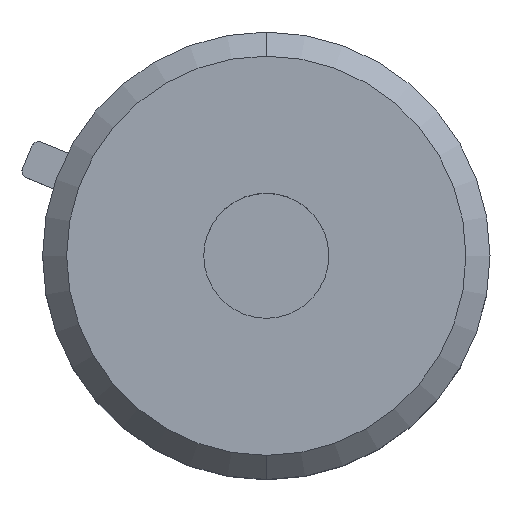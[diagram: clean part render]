
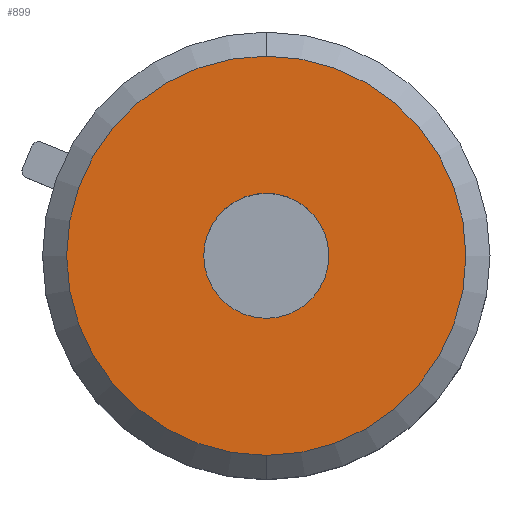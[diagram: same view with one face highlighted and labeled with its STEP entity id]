
A CAD part, top view. The second image highlights one B-rep face of the part: STEP entity #899.
In plain terms, the highlighted planar face has unit normal (0, 0, 1).
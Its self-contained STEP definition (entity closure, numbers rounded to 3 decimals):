
#42 = DIRECTION ( 'NONE',  ( 0., -1., 0. ) ) ;
#55 = CIRCLE ( 'NONE', #1607, 1.3 ) ;
#126 = DIRECTION ( 'NONE',  ( 0.707, 0.707, 0. ) ) ;
#130 = ORIENTED_EDGE ( 'NONE', *, *, #1163, .T. ) ;
#148 = DIRECTION ( 'NONE',  ( 0., 0., 1. ) ) ;
#184 = DIRECTION ( 'NONE',  ( 0., -1., 0. ) ) ;
#221 = EDGE_CURVE ( 'NONE', #1506, #1194, #1068, .T. ) ;
#233 = ORIENTED_EDGE ( 'NONE', *, *, #301, .F. ) ;
#300 = DIRECTION ( 'NONE',  ( 0., -1., 0. ) ) ;
#301 = EDGE_CURVE ( 'NONE', #1147, #1373, #55, .T. ) ;
#313 = CARTESIAN_POINT ( 'NONE',  ( 0., 0., 6.1 ) ) ;
#564 = DIRECTION ( 'NONE',  ( 0., 0., 1. ) ) ;
#608 = ORIENTED_EDGE ( 'NONE', *, *, #1126, .F. ) ;
#875 = EDGE_LOOP ( 'NONE', ( #130, #1139 ) ) ;
#899 = ADVANCED_FACE ( 'NONE', ( #1886, #1753 ), #1310, .T. ) ;
#916 = DIRECTION ( 'NONE',  ( 0., -1., 0. ) ) ;
#967 = AXIS2_PLACEMENT_3D ( 'NONE', #1910, #564, #126 ) ;
#970 = AXIS2_PLACEMENT_3D ( 'NONE', #313, #1016, #184 ) ;
#984 = DIRECTION ( 'NONE',  ( 0., 0., 1. ) ) ;
#1016 = DIRECTION ( 'NONE',  ( 0., 0., 1. ) ) ;
#1064 = CIRCLE ( 'NONE', #970, 4.15 ) ;
#1068 = CIRCLE ( 'NONE', #1577, 4.15 ) ;
#1090 = CIRCLE ( 'NONE', #1874, 1.3 ) ;
#1091 = CARTESIAN_POINT ( 'NONE',  ( 0., 0., 6.1 ) ) ;
#1126 = EDGE_CURVE ( 'NONE', #1373, #1147, #1090, .T. ) ;
#1139 = ORIENTED_EDGE ( 'NONE', *, *, #221, .T. ) ;
#1147 = VERTEX_POINT ( 'NONE', #1788 ) ;
#1163 = EDGE_CURVE ( 'NONE', #1194, #1506, #1064, .T. ) ;
#1194 = VERTEX_POINT ( 'NONE', #1363 ) ;
#1215 = CARTESIAN_POINT ( 'NONE',  ( 0., 1.3, 6.1 ) ) ;
#1310 = PLANE ( 'NONE',  #967 ) ;
#1354 = CARTESIAN_POINT ( 'NONE',  ( 0., 0., 6.1 ) ) ;
#1363 = CARTESIAN_POINT ( 'NONE',  ( 0., 4.15, 6.1 ) ) ;
#1373 = VERTEX_POINT ( 'NONE', #1215 ) ;
#1506 = VERTEX_POINT ( 'NONE', #1584 ) ;
#1577 = AXIS2_PLACEMENT_3D ( 'NONE', #1729, #984, #916 ) ;
#1584 = CARTESIAN_POINT ( 'NONE',  ( 0., -4.15, 6.1 ) ) ;
#1607 = AXIS2_PLACEMENT_3D ( 'NONE', #1091, #1848, #42 ) ;
#1729 = CARTESIAN_POINT ( 'NONE',  ( 0., 0., 6.1 ) ) ;
#1753 = FACE_OUTER_BOUND ( 'NONE', #875, .T. ) ;
#1788 = CARTESIAN_POINT ( 'NONE',  ( 0., -1.3, 6.1 ) ) ;
#1848 = DIRECTION ( 'NONE',  ( 0., 0., 1. ) ) ;
#1874 = AXIS2_PLACEMENT_3D ( 'NONE', #1354, #148, #300 ) ;
#1886 = FACE_BOUND ( 'NONE', #1912, .T. ) ;
#1910 = CARTESIAN_POINT ( 'NONE',  ( -4.15, 0., 6.1 ) ) ;
#1912 = EDGE_LOOP ( 'NONE', ( #233, #608 ) ) ;
